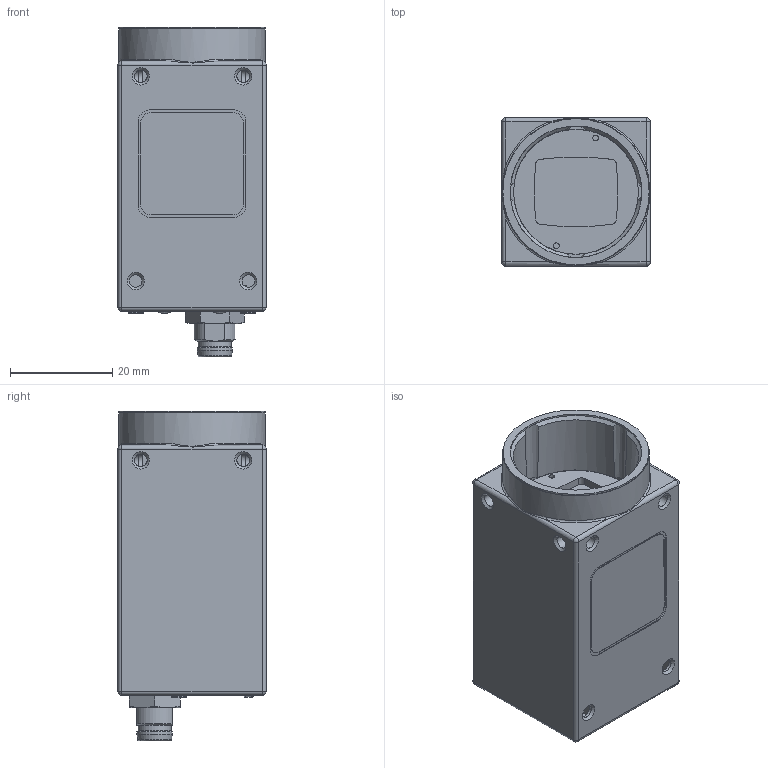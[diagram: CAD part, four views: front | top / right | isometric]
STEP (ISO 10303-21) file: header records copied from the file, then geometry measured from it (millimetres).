
FILE_DESCRIPTION( ( 'Unknown' ), '1' );
FILE_NAME( 'C:/Users/rih/Desktop/11172631_VCXG-201C.R.stp', 'Unknown', ( 'Unknown' ), ( 'Unknown' ), 'PSStep 19.0.9', 'Unknown', ' ' );
FILE_SCHEMA( ( 'AUTOMOTIVE_DESIGN { 1 0 10303 214 1 1 1 1 }' ) );
Length unit declared in the file: millimetre
Products named in the file (7): 11080147
Bounding box: 29 x 29 x 64.4 mm (x, y, z)
Volume: 13654.2 mm3; surface area: 23613.2 mm2
Topology: 7 solids, 12 shells, 2272 faces, 6097 edges, 3948 vertices
Faces by surface type: plane 1338, cylinder 727, cone 74, torus 53, sphere 48, bspline 24, extrusion 8
Full cylindrical faces by diameter (mm): 0.217 x1, 0.6 x16, 0.9 x117, 1.075 x2, 1.1 x2, 1.4 x4, 1.567 x2, 1.6 x2, 1.9 x4, 2.459 x10, 3 x4, 6.5 x1, 6.9 x1, 8.4 x1, 9 x1, 9.4 x1, 24.4 x1, 25.7 x1, 26 x1, 28.6 x1, 28.7 x1
Entity records: 88847 total; most frequent: CARTESIAN_POINT 15252, DIRECTION 11419, ORIENTED_EDGE 11304, EDGE_CURVE 5652, AXIS2_PLACEMENT_3D 3916, VERTEX_POINT 3761, VECTOR 3587, LINE 3579
